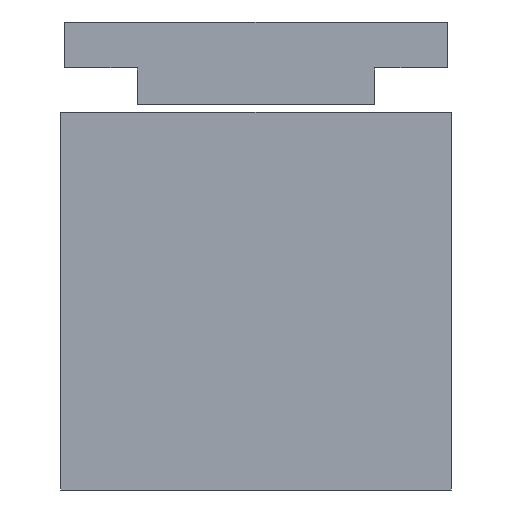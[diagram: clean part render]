
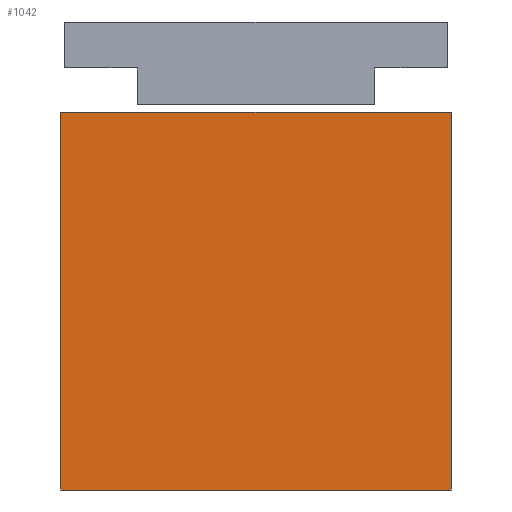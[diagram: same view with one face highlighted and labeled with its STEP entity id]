
A CAD part, left-side view. The second image highlights one B-rep face of the part: STEP entity #1042.
In plain terms, the highlighted planar face has unit normal (-1, 0, 0).
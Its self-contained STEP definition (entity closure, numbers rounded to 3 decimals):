
#52 = VERTEX_POINT ( 'NONE', #6029 ) ;
#264 = VERTEX_POINT ( 'NONE', #6613 ) ;
#548 = CARTESIAN_POINT ( 'NONE',  ( -140., 25.5, 49.3 ) ) ;
#771 = CARTESIAN_POINT ( 'NONE',  ( -140., -25.5, 0. ) ) ;
#902 = VECTOR ( 'NONE', #2284, 1000. ) ;
#949 = CARTESIAN_POINT ( 'NONE',  ( -140., -25.5, 49.3 ) ) ;
#1042 = ADVANCED_FACE ( 'NONE', ( #4847 ), #1150, .F. ) ;
#1150 = PLANE ( 'NONE',  #4980 ) ;
#1186 = ORIENTED_EDGE ( 'NONE', *, *, #2492, .F. ) ;
#1292 = CARTESIAN_POINT ( 'NONE',  ( -140., 25.5, 49.3 ) ) ;
#1311 = LINE ( 'NONE', #1292, #4561 ) ;
#1532 = DIRECTION ( 'NONE',  ( 0., 0., -1. ) ) ;
#1660 = DIRECTION ( 'NONE',  ( 0., 0., -1. ) ) ;
#1713 = EDGE_CURVE ( 'NONE', #52, #2472, #6528, .T. ) ;
#1757 = ORIENTED_EDGE ( 'NONE', *, *, #1842, .T. ) ;
#1842 = EDGE_CURVE ( 'NONE', #2300, #264, #1311, .T. ) ;
#1878 = DIRECTION ( 'NONE',  ( 0., -1., 0. ) ) ;
#2126 = DIRECTION ( 'NONE',  ( 1., 0., 0. ) ) ;
#2284 = DIRECTION ( 'NONE',  ( 0., -1., 0. ) ) ;
#2300 = VERTEX_POINT ( 'NONE', #548 ) ;
#2466 = EDGE_LOOP ( 'NONE', ( #2716, #3908, #1186, #1757 ) ) ;
#2472 = VERTEX_POINT ( 'NONE', #771 ) ;
#2492 = EDGE_CURVE ( 'NONE', #2300, #52, #3312, .T. ) ;
#2716 = ORIENTED_EDGE ( 'NONE', *, *, #5293, .T. ) ;
#3312 = LINE ( 'NONE', #5899, #6010 ) ;
#3818 = DIRECTION ( 'NONE',  ( 0., 0., -1. ) ) ;
#3908 = ORIENTED_EDGE ( 'NONE', *, *, #1713, .F. ) ;
#4176 = LINE ( 'NONE', #4608, #902 ) ;
#4561 = VECTOR ( 'NONE', #3818, 1000. ) ;
#4608 = CARTESIAN_POINT ( 'NONE',  ( -140., -25.5, 0. ) ) ;
#4694 = CARTESIAN_POINT ( 'NONE',  ( -140., -25.5, 49.3 ) ) ;
#4847 = FACE_OUTER_BOUND ( 'NONE', #2466, .T. ) ;
#4980 = AXIS2_PLACEMENT_3D ( 'NONE', #4694, #2126, #1660 ) ;
#5293 = EDGE_CURVE ( 'NONE', #264, #2472, #4176, .T. ) ;
#5477 = VECTOR ( 'NONE', #1532, 1000. ) ;
#5899 = CARTESIAN_POINT ( 'NONE',  ( -140., -25.5, 49.3 ) ) ;
#6010 = VECTOR ( 'NONE', #1878, 1000. ) ;
#6029 = CARTESIAN_POINT ( 'NONE',  ( -140., -25.5, 49.3 ) ) ;
#6528 = LINE ( 'NONE', #949, #5477 ) ;
#6613 = CARTESIAN_POINT ( 'NONE',  ( -140., 25.5, 0. ) ) ;
